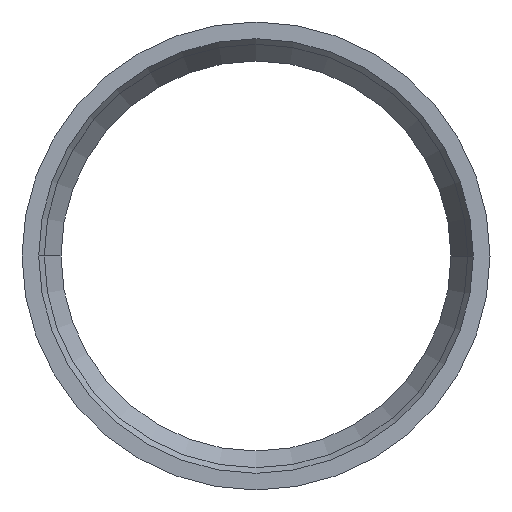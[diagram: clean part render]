
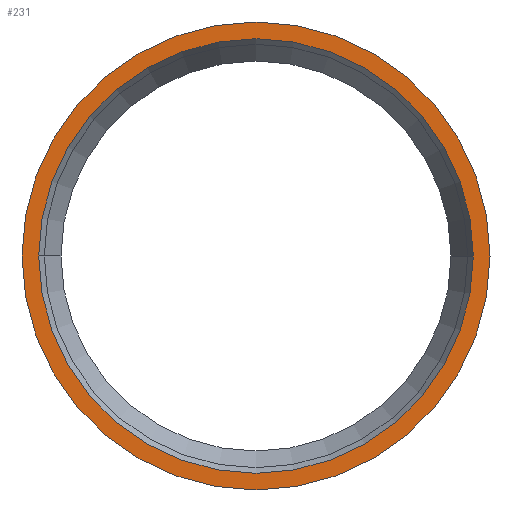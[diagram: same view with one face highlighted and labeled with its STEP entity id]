
A CAD part, left-side view. The second image highlights one B-rep face of the part: STEP entity #231.
In plain terms, the highlighted planar face has unit normal (-1, 0, 0).
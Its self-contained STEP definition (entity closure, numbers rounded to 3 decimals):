
#10 = FACE_BOUND ( 'NONE', #125, .T. ) ;
#31 = EDGE_CURVE ( 'NONE', #336, #269, #176, .T. ) ;
#52 = AXIS2_PLACEMENT_3D ( 'NONE', #417, #415, #413 ) ;
#67 = EDGE_CURVE ( 'NONE', #180, #285, #79, .T. ) ;
#75 = AXIS2_PLACEMENT_3D ( 'NONE', #142, #141, #136 ) ;
#79 = CIRCLE ( 'NONE', #52, 19.5 ) ;
#102 = CARTESIAN_POINT ( 'NONE',  ( -1248.75, 0., 19.5 ) ) ;
#108 = AXIS2_PLACEMENT_3D ( 'NONE', #422, #158, #157 ) ;
#120 = FACE_OUTER_BOUND ( 'NONE', #255, .T. ) ;
#125 = EDGE_LOOP ( 'NONE', ( #169, #208 ) ) ;
#134 = CARTESIAN_POINT ( 'NONE',  ( -1248.75, 0., -21. ) ) ;
#136 = DIRECTION ( 'NONE',  ( 0., 0., -1. ) ) ;
#137 = ORIENTED_EDGE ( 'NONE', *, *, #31, .F. ) ;
#141 = DIRECTION ( 'NONE',  ( 1., 0., 0. ) ) ;
#142 = CARTESIAN_POINT ( 'NONE',  ( -1248.75, 0., 0. ) ) ;
#157 = DIRECTION ( 'NONE',  ( 0., 0., -1. ) ) ;
#158 = DIRECTION ( 'NONE',  ( 1., 0., 0. ) ) ;
#161 = AXIS2_PLACEMENT_3D ( 'NONE', #440, #434, #433 ) ;
#162 = PLANE ( 'NONE',  #108 ) ;
#169 = ORIENTED_EDGE ( 'NONE', *, *, #243, .T. ) ;
#176 = CIRCLE ( 'NONE', #161, 21. ) ;
#180 = VERTEX_POINT ( 'NONE', #240 ) ;
#197 = ORIENTED_EDGE ( 'NONE', *, *, #485, .F. ) ;
#208 = ORIENTED_EDGE ( 'NONE', *, *, #67, .T. ) ;
#218 = DIRECTION ( 'NONE',  ( 0., 0., -1. ) ) ;
#231 = ADVANCED_FACE ( 'NONE', ( #10, #120 ), #162, .F. ) ;
#236 = CIRCLE ( 'NONE', #459, 21. ) ;
#240 = CARTESIAN_POINT ( 'NONE',  ( -1248.75, 0., -19.5 ) ) ;
#243 = EDGE_CURVE ( 'NONE', #285, #180, #465, .T. ) ;
#255 = EDGE_LOOP ( 'NONE', ( #137, #197 ) ) ;
#269 = VERTEX_POINT ( 'NONE', #134 ) ;
#285 = VERTEX_POINT ( 'NONE', #102 ) ;
#296 = DIRECTION ( 'NONE',  ( 1., 0., 0. ) ) ;
#304 = CARTESIAN_POINT ( 'NONE',  ( -1248.75, 0., 0. ) ) ;
#336 = VERTEX_POINT ( 'NONE', #457 ) ;
#413 = DIRECTION ( 'NONE',  ( 0., 0., -1. ) ) ;
#415 = DIRECTION ( 'NONE',  ( 1., 0., 0. ) ) ;
#417 = CARTESIAN_POINT ( 'NONE',  ( -1248.75, 0., 0. ) ) ;
#422 = CARTESIAN_POINT ( 'NONE',  ( -1248.75, 0., 0. ) ) ;
#433 = DIRECTION ( 'NONE',  ( 0., 0., -1. ) ) ;
#434 = DIRECTION ( 'NONE',  ( 1., 0., 0. ) ) ;
#440 = CARTESIAN_POINT ( 'NONE',  ( -1248.75, 0., 0. ) ) ;
#457 = CARTESIAN_POINT ( 'NONE',  ( -1248.75, 0., 21. ) ) ;
#459 = AXIS2_PLACEMENT_3D ( 'NONE', #304, #296, #218 ) ;
#465 = CIRCLE ( 'NONE', #75, 19.5 ) ;
#485 = EDGE_CURVE ( 'NONE', #269, #336, #236, .T. ) ;
